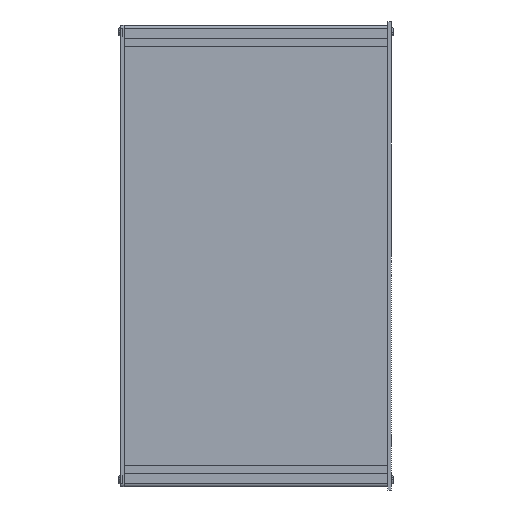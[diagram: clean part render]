
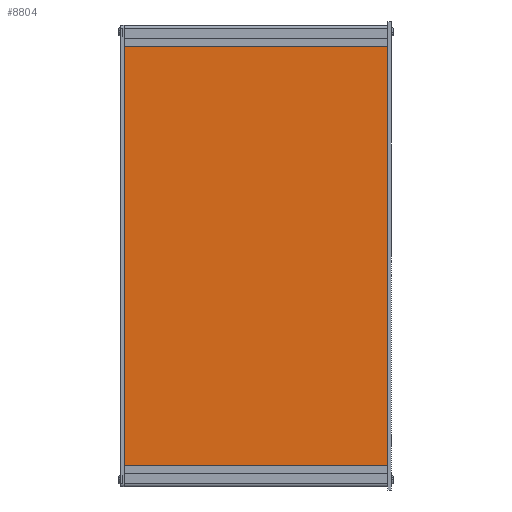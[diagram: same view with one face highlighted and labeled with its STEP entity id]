
A CAD part, left-side view. The second image highlights one B-rep face of the part: STEP entity #8804.
In plain terms, the highlighted planar face has unit normal (-1, 0, 0).
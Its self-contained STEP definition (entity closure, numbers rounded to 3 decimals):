
#972=PLANE('',#9674);
#1268=FACE_OUTER_BOUND('',#1814,.T.);
#1814=EDGE_LOOP('',(#6737,#6738,#6739,#6740));
#2614=LINE('',#13918,#3304);
#2624=LINE('',#13939,#3314);
#2625=LINE('',#13941,#3315);
#2626=LINE('',#13942,#3316);
#3304=VECTOR('',#11148,10.);
#3314=VECTOR('',#11166,10.);
#3315=VECTOR('',#11167,10.);
#3316=VECTOR('',#11168,10.);
#4330=VERTEX_POINT('',#13911);
#4333=VERTEX_POINT('',#13916);
#4340=VERTEX_POINT('',#13938);
#4341=VERTEX_POINT('',#13940);
#5197=EDGE_CURVE('',#4330,#4333,#2614,.T.);
#5207=EDGE_CURVE('',#4330,#4340,#2624,.T.);
#5208=EDGE_CURVE('',#4341,#4333,#2625,.T.);
#5209=EDGE_CURVE('',#4340,#4341,#2626,.T.);
#6737=ORIENTED_EDGE('',*,*,#5207,.F.);
#6738=ORIENTED_EDGE('',*,*,#5197,.T.);
#6739=ORIENTED_EDGE('',*,*,#5208,.F.);
#6740=ORIENTED_EDGE('',*,*,#5209,.F.);
#8804=ADVANCED_FACE('',(#1268),#972,.T.);
#9674=AXIS2_PLACEMENT_3D('',#13937,#11164,#11165);
#11148=DIRECTION('',(0.,1.,0.));
#11164=DIRECTION('center_axis',(-1.,0.,0.));
#11165=DIRECTION('ref_axis',(0.,0.,1.));
#11166=DIRECTION('',(0.,0.,-1.));
#11167=DIRECTION('',(0.,0.,1.));
#11168=DIRECTION('',(0.,1.,0.));
#13911=CARTESIAN_POINT('',(239.,0.,114.7));
#13916=CARTESIAN_POINT('',(239.,200.,114.7));
#13918=CARTESIAN_POINT('',(239.,0.,114.7));
#13937=CARTESIAN_POINT('Origin',(239.,0.,-202.8));
#13938=CARTESIAN_POINT('',(239.,0.,-202.8));
#13939=CARTESIAN_POINT('',(239.,0.,-44.05));
#13940=CARTESIAN_POINT('',(239.,200.,-202.8));
#13941=CARTESIAN_POINT('',(239.,200.,-44.05));
#13942=CARTESIAN_POINT('',(239.,0.,-202.8));
